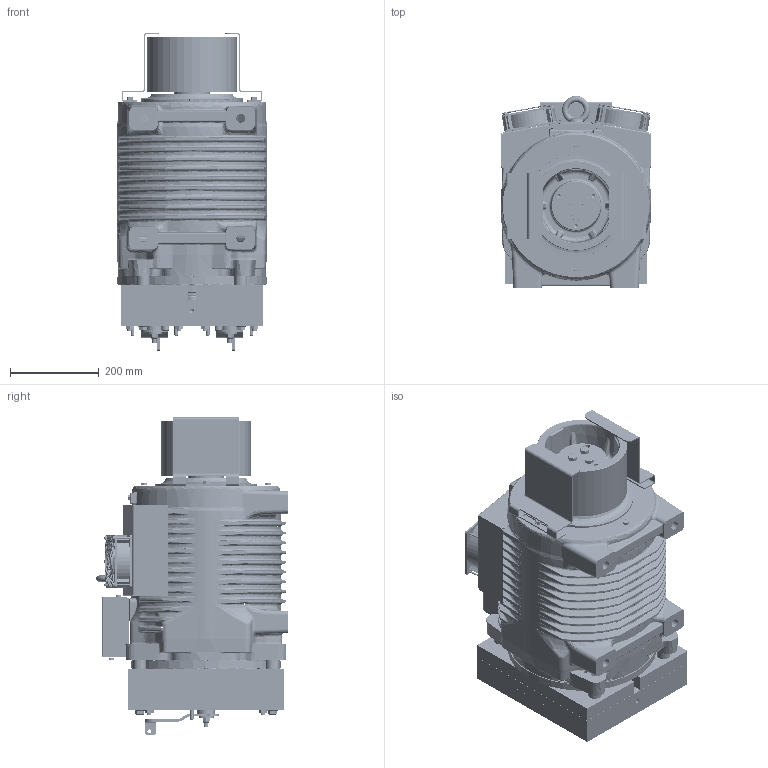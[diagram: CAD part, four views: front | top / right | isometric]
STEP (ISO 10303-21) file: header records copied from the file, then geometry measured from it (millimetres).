
FILE_DESCRIPTION((''),'2;1');
FILE_NAME('00363588_ASM','2020-06-08T',('furlanis'),('Sicor spa'),'CREO PARAMETRIC BY PTC INC, 2017170','CREO PARAMETRIC BY PTC INC, 2017170','');
FILE_SCHEMA(('CONFIG_CONTROL_DESIGN'));
Products named in the file (18): SG48; _200_125; _200; 00073486; TEM12X45_VIT0222; 00255325; M4_FTT_C; 00257514_ASM; 00002908; 00002901; 00002909_ASM; 00002902; 00042420_M4X50; TEM6X12_VIR0184; 00000263; 00257517_ASM; RTW800_MIT_HL; 00363588_ASM
Assembly tree (37 placements, depth 4):
  00363588_ASM
    SG48
    _200_125
    _200  x2
    00073486
    TEM12X45_VIT0222  x3
    00257517_ASM
      00257514_ASM
        00255325
        M4_FTT_C  x8
      00002909_ASM  x2
        00002908
        00002901
      00002902  x2
      00042420_M4X50  x8
      TEM6X12_VIR0184  x2
      00000263
    RTW800_MIT_HL
Bounding box: 340.21 x 433.5 x 717.34 mm (x, y, z)
Volume: 14540773.9 mm3; surface area: 3178608.8 mm2
Topology: 35 solids, 289 shells, 8693 faces, 25328 edges, 16858 vertices
Faces by surface type: plane 4487, cylinder 1838, bspline 992, cone 701, torus 615, sphere 48, revolution 12
Entity records: 356623 total; most frequent: CARTESIAN_POINT 155462, ORIENTED_EDGE 42314, DIRECTION 37417, EDGE_CURVE 23631, VERTEX_POINT 15865, VECTOR 13771, LINE 13771, AXIS2_PLACEMENT_3D 11817
